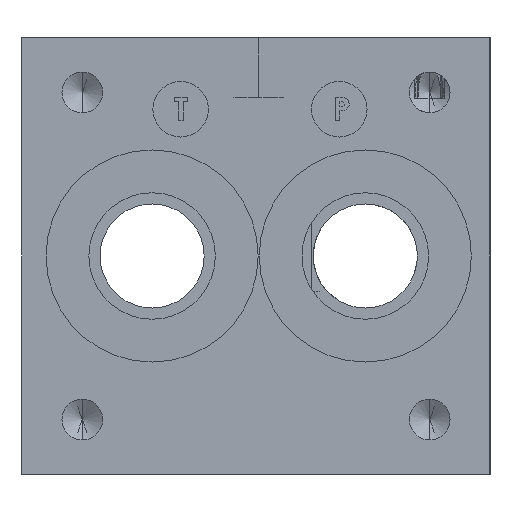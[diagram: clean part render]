
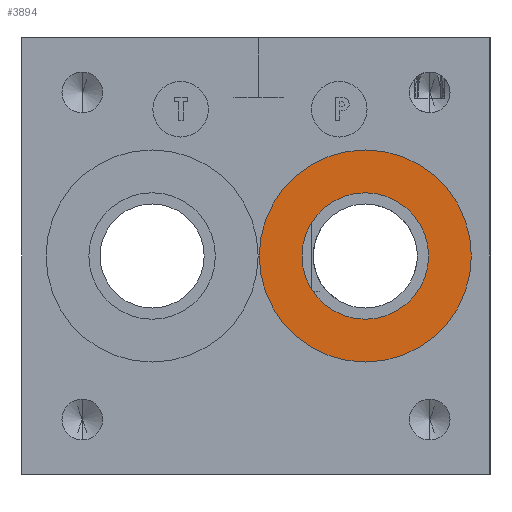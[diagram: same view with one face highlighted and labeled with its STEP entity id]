
A CAD part, left-side view. The second image highlights one B-rep face of the part: STEP entity #3894.
In plain terms, the highlighted planar face has unit normal (-1, 0, 0).
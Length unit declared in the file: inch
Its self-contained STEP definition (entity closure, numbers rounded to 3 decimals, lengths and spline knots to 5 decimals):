
#556 = CARTESIAN_POINT ( 'NONE',  ( 0.031, 0.786, 2.0434 ) ) ;
#1828 = CIRCLE ( 'NONE', #18583, 0.6684 ) ;
#3894 = ADVANCED_FACE ( 'NONE', ( #5217, #32293 ), #27503, .F. ) ;
#4488 = CARTESIAN_POINT ( 'NONE',  ( 0.031, 0.786, 1.77385 ) ) ;
#4835 = DIRECTION ( 'NONE',  ( 0., 0., 1. ) ) ;
#4867 = DIRECTION ( 'NONE',  ( -1., 0., 0. ) ) ;
#4902 = CARTESIAN_POINT ( 'NONE',  ( 0.031, 0.786, 1.375 ) ) ;
#5217 = FACE_BOUND ( 'NONE', #23977, .T. ) ;
#5803 = EDGE_CURVE ( 'NONE', #18173, #5970, #7579, .T. ) ;
#5970 = VERTEX_POINT ( 'NONE', #23983 ) ;
#6006 = EDGE_CURVE ( 'NONE', #5970, #18173, #1828, .T. ) ;
#6424 = EDGE_CURVE ( 'NONE', #17992, #29069, #25461, .T. ) ;
#6453 = EDGE_LOOP ( 'NONE', ( #32553, #32960 ) ) ;
#7579 = CIRCLE ( 'NONE', #19691, 0.6684 ) ;
#11591 = ORIENTED_EDGE ( 'NONE', *, *, #26756, .F. ) ;
#12812 = ORIENTED_EDGE ( 'NONE', *, *, #6424, .F. ) ;
#15480 = DIRECTION ( 'NONE',  ( -1., 0., 0. ) ) ;
#16448 = AXIS2_PLACEMENT_3D ( 'NONE', #4902, #4867, #4835 ) ;
#17992 = VERTEX_POINT ( 'NONE', #4488 ) ;
#18173 = VERTEX_POINT ( 'NONE', #556 ) ;
#18471 = CARTESIAN_POINT ( 'NONE',  ( 0.031, 0.786, 0.97615 ) ) ;
#18583 = AXIS2_PLACEMENT_3D ( 'NONE', #21814, #21785, #21781 ) ;
#19691 = AXIS2_PLACEMENT_3D ( 'NONE', #28480, #28448, #28411 ) ;
#20285 = CIRCLE ( 'NONE', #32471, 0.39885 ) ;
#21781 = DIRECTION ( 'NONE',  ( 0., 0., 1. ) ) ;
#21785 = DIRECTION ( 'NONE',  ( -1., 0., 0. ) ) ;
#21814 = CARTESIAN_POINT ( 'NONE',  ( 0.031, 0.786, 1.375 ) ) ;
#23977 = EDGE_LOOP ( 'NONE', ( #12812, #11591 ) ) ;
#23983 = CARTESIAN_POINT ( 'NONE',  ( 0.031, 0.786, 0.7066 ) ) ;
#25461 = CIRCLE ( 'NONE', #16448, 0.39885 ) ;
#26756 = EDGE_CURVE ( 'NONE', #29069, #17992, #20285, .T. ) ;
#27418 = DIRECTION ( 'NONE',  ( 0., 0., -1. ) ) ;
#27453 = DIRECTION ( 'NONE',  ( 1., 0., 0. ) ) ;
#27503 = PLANE ( 'NONE',  #30696 ) ;
#27780 = CARTESIAN_POINT ( 'NONE',  ( 0.031, 0.786, 1.375 ) ) ;
#28411 = DIRECTION ( 'NONE',  ( 0., 0., 1. ) ) ;
#28448 = DIRECTION ( 'NONE',  ( -1., 0., 0. ) ) ;
#28480 = CARTESIAN_POINT ( 'NONE',  ( 0.031, 0.786, 1.375 ) ) ;
#29069 = VERTEX_POINT ( 'NONE', #18471 ) ;
#30566 = CARTESIAN_POINT ( 'NONE',  ( 0.031, 0.786, 1.375 ) ) ;
#30696 = AXIS2_PLACEMENT_3D ( 'NONE', #27780, #27453, #27418 ) ;
#32293 = FACE_OUTER_BOUND ( 'NONE', #6453, .T. ) ;
#32471 = AXIS2_PLACEMENT_3D ( 'NONE', #30566, #15480, #33124 ) ;
#32553 = ORIENTED_EDGE ( 'NONE', *, *, #5803, .T. ) ;
#32960 = ORIENTED_EDGE ( 'NONE', *, *, #6006, .T. ) ;
#33124 = DIRECTION ( 'NONE',  ( 0., 0., 1. ) ) ;
